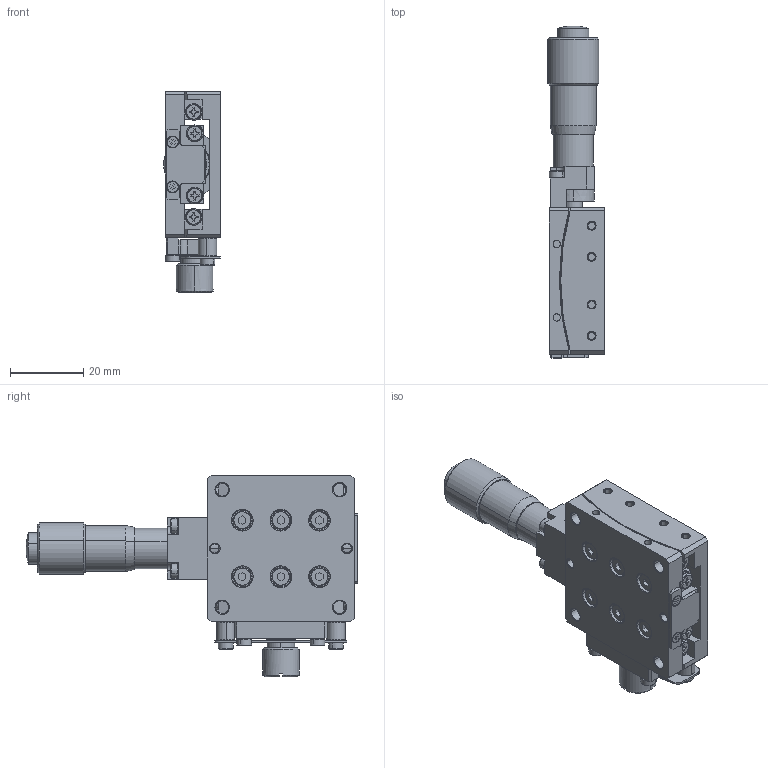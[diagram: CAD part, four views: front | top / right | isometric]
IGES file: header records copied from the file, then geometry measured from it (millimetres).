
Start section: SolidWorks IGES file using analytic representation for surfaces
Global section: file name: E:\0产品2d3d图纸-20180629\10PHT\40A\IGS\PHT-40A60CR.IGS; native system: SolidWorks 2015; preprocessor: SolidWorks 2015; author: Administrator; date: 190121.141217; units: millimetre
Bounding box: 15.5 x 90.41 x 55 mm (x, y, z)
Surface area: 26022.7 mm2 (no closed solid volume)
Topology: 0 solids, 0 shells, 1241 faces, 16706 edges, 16702 vertices
Faces by surface type: revolution 664, bspline 577
